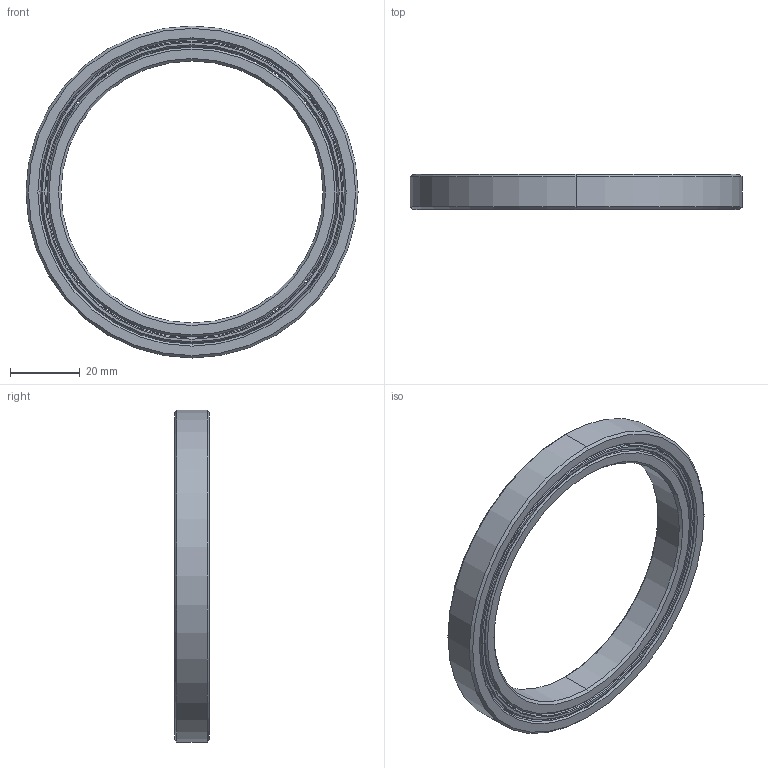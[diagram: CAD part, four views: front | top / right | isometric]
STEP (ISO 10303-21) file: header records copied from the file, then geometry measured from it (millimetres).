
FILE_DESCRIPTION (( 'STEP AP214' ), '1' );
FILE_NAME ('6815 BEARING V3 STYLE.STEP', '2022-02-15T23:38:19', ( '' ), ( '' ), 'SwSTEP 2.0', 'SolidWorks 2019', '' );
FILE_SCHEMA (( 'AUTOMOTIVE_DESIGN' ));
Length unit declared in the file: millimetre
Products named in the file (1): 6815 BEARING V3 STYLE
Bounding box: 95 x 10 x 95 mm (x, y, z)
Volume: 23140.2 mm3; surface area: 21126.7 mm2
Topology: 14 solids, 14 shells, 364 faces, 1054 edges, 656 vertices
Faces by surface type: cone 164, sphere 100, cylinder 68, plane 26, torus 6
Entity records: 13497 total; most frequent: CARTESIAN_POINT 3581, ORIENTED_EDGE 1928, DIRECTION 1810, EDGE_CURVE 964, AXIS2_PLACEMENT_3D 851, VERTEX_POINT 626, CIRCLE 486, B_SPLINE_CURVE_WITH_KNOTS 370
